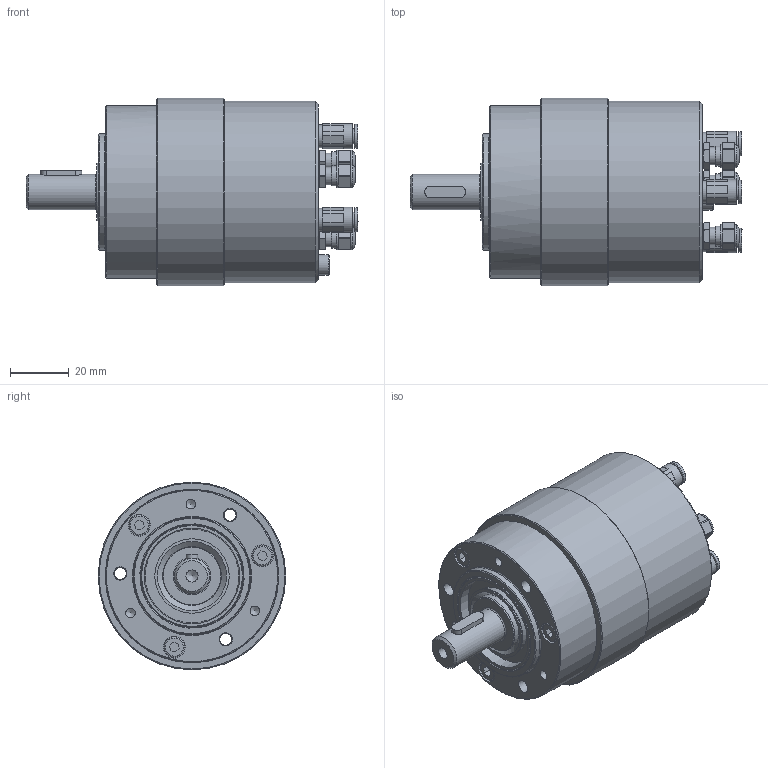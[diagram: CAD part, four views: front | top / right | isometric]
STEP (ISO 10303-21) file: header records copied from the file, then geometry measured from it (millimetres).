
FILE_DESCRIPTION(/* description */ (''),/* implementation_level */ '2;1');
FILE_NAME(/* name */ 'G:\02 CAD Dateien\02 - CAD Schrittmotoren BPS\01 - Standart Produkte\BPS 1620-23\Verkaufsunterlagen\500-16-361 Schrittmotor BPS-1620IP-SA.stp',/* time_stamp */ '2018-07-11T11:25:33+02:00',/* author */ ('RSc'),/* organization */ (''),/* preprocessor_version */ 'ST-DEVELOPER v16.1',/* originating_system */ 'Autodesk Inventor 2016',/* authorisation */ '');
FILE_SCHEMA (('AUTOMOTIVE_DESIGN { 1 0 10303 214 3 1 1 }'));
Length unit declared in the file: millimetre
Products named in the file (1): 500-16-361 Schrittmotor BPS-1620IP-SA
Bounding box: 113.3 x 64 x 64 mm (x, y, z)
Volume: 215669.7 mm3; surface area: 42015.5 mm2
Topology: 12 solids, 24 shells, 660 faces, 1572 edges, 1030 vertices
Faces by surface type: plane 281, cylinder 155, cone 89, torus 82, bspline 31, sphere 22
Full cylindrical faces by diameter (mm): 2 x5, 2.7 x3, 3 x1, 3.242 x3, 3.6 x3, 4 x6, 4.1 x3, 4.134 x1, 4.5 x6, 4.7 x3, 4.773 x3, 4.8 x6, 4.917 x3, 5.2 x3, 5.93 x3, 6.2 x3, 6.38 x3, 6.84 x3, 7 x4, 7.5 x3, 7.8 x3, 7.9 x6, 8.1 x3, 8.5 x3, 9 x1, 12 x1, 20 x2, 25.325 x1, 25.4 x1, 26.657 x2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
Entity records: 19221 total; most frequent: CARTESIAN_POINT 4636, DIRECTION 2913, ORIENTED_EDGE 2580, EDGE_CURVE 1245, AXIS2_PLACEMENT_3D 1209, EDGE_LOOP 1013, VERTEX_POINT 914, ADVANCED_FACE 660
